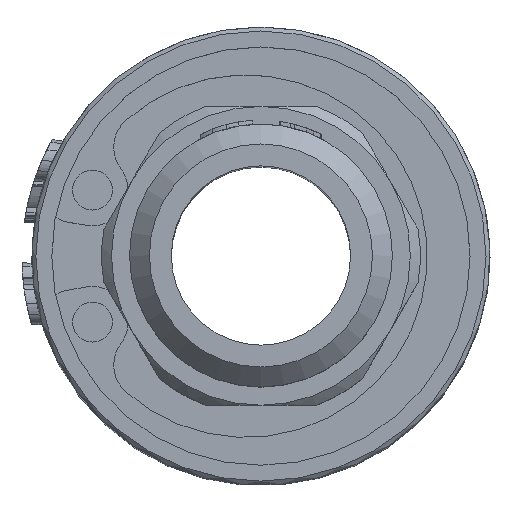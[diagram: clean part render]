
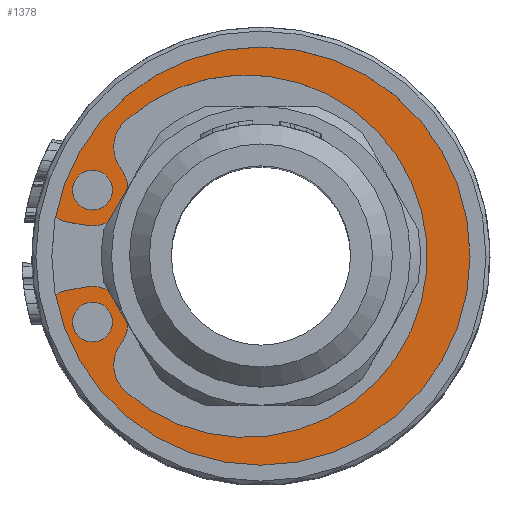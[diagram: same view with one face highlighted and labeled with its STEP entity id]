
A CAD part, top view. The second image highlights one B-rep face of the part: STEP entity #1378.
In plain terms, the highlighted planar face has unit normal (0, 0, 1).
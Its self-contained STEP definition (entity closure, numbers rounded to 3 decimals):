
#197=FACE_BOUND('',#3450,.T.);
#198=FACE_BOUND('',#3451,.T.);
#199=FACE_BOUND('',#3452,.T.);
#1378=ADVANCED_FACE('',(#197,#198,#199),#1902,.T.);
#1902=PLANE('',#16254);
#3450=EDGE_LOOP('',(#9017));
#3451=EDGE_LOOP('',(#9018,#9019,#9020,#9021,#9022,#9023,#9024,#9025,#9026,
#9027,#9028,#9029,#9030,#9031));
#3452=EDGE_LOOP('',(#9032));
#3778=CIRCLE('',#16223,11.);
#3779=CIRCLE('',#16228,6.6);
#3780=CIRCLE('',#16230,6.6);
#3781=CIRCLE('',#16232,1.793);
#3782=CIRCLE('',#16234,1.793);
#3783=CIRCLE('',#16236,1.793);
#3784=CIRCLE('',#16238,1.793);
#3785=CIRCLE('',#16240,9.1);
#3786=CIRCLE('',#16242,1.);
#3787=CIRCLE('',#16244,1.793);
#3788=CIRCLE('',#16247,1.793);
#3789=CIRCLE('',#16249,1.);
#3790=CIRCLE('',#16252,1.);
#3791=CIRCLE('',#16253,1.);
#9017=ORIENTED_EDGE('',*,*,#14128,.F.);
#9018=ORIENTED_EDGE('',*,*,#14127,.T.);
#9019=ORIENTED_EDGE('',*,*,#14125,.T.);
#9020=ORIENTED_EDGE('',*,*,#14100,.F.);
#9021=ORIENTED_EDGE('',*,*,#14119,.F.);
#9022=ORIENTED_EDGE('',*,*,#14122,.F.);
#9023=ORIENTED_EDGE('',*,*,#14120,.F.);
#9024=ORIENTED_EDGE('',*,*,#14108,.T.);
#9025=ORIENTED_EDGE('',*,*,#14112,.F.);
#9026=ORIENTED_EDGE('',*,*,#14109,.F.);
#9027=ORIENTED_EDGE('',*,*,#14117,.F.);
#9028=ORIENTED_EDGE('',*,*,#14113,.T.);
#9029=ORIENTED_EDGE('',*,*,#14116,.T.);
#9030=ORIENTED_EDGE('',*,*,#14105,.F.);
#9031=ORIENTED_EDGE('',*,*,#14123,.T.);
#9032=ORIENTED_EDGE('',*,*,#14129,.T.);
#11935=VERTEX_POINT('',#30447);
#11936=VERTEX_POINT('',#30448);
#11937=VERTEX_POINT('',#30456);
#11938=VERTEX_POINT('',#30458);
#11939=VERTEX_POINT('',#30462);
#11940=VERTEX_POINT('',#30464);
#11941=VERTEX_POINT('',#30468);
#11942=VERTEX_POINT('',#30469);
#11943=VERTEX_POINT('',#30476);
#11944=VERTEX_POINT('',#30477);
#11945=VERTEX_POINT('',#30486);
#11946=VERTEX_POINT('',#30490);
#11947=VERTEX_POINT('',#30496);
#11948=VERTEX_POINT('',#30500);
#11949=VERTEX_POINT('',#30506);
#11950=VERTEX_POINT('',#30508);
#14100=EDGE_CURVE('',#11935,#11936,#3778,.T.);
#14105=EDGE_CURVE('',#11938,#11937,#3779,.T.);
#14108=EDGE_CURVE('',#11939,#11940,#3780,.T.);
#14109=EDGE_CURVE('',#11941,#11942,#3781,.T.);
#14112=EDGE_CURVE('',#11942,#11940,#3782,.T.);
#14113=EDGE_CURVE('',#11943,#11944,#3783,.T.);
#14116=EDGE_CURVE('',#11944,#11937,#3784,.T.);
#14117=EDGE_CURVE('',#11943,#11941,#3785,.T.);
#14119=EDGE_CURVE('',#11945,#11935,#3786,.T.);
#14120=EDGE_CURVE('',#11939,#11946,#3787,.T.);
#14122=EDGE_CURVE('',#11946,#11945,#14960,.T.);
#14123=EDGE_CURVE('',#11938,#11947,#3788,.T.);
#14125=EDGE_CURVE('',#11948,#11936,#3789,.T.);
#14127=EDGE_CURVE('',#11947,#11948,#14963,.T.);
#14128=EDGE_CURVE('',#11949,#11949,#3790,.T.);
#14129=EDGE_CURVE('',#11950,#11950,#3791,.T.);
#14960=LINE('',#30493,#15695);
#14963=LINE('',#30503,#15698);
#15695=VECTOR('',#17797,1.);
#15698=VECTOR('',#17810,1.);
#16223=AXIS2_PLACEMENT_3D('',#30446,#17739,#17740);
#16228=AXIS2_PLACEMENT_3D('',#30459,#17753,#17754);
#16230=AXIS2_PLACEMENT_3D('',#30465,#17759,#17760);
#16232=AXIS2_PLACEMENT_3D('',#30467,#17763,#17764);
#16234=AXIS2_PLACEMENT_3D('',#30473,#17769,#17770);
#16236=AXIS2_PLACEMENT_3D('',#30475,#17773,#17774);
#16238=AXIS2_PLACEMENT_3D('',#30481,#17779,#17780);
#16240=AXIS2_PLACEMENT_3D('',#30483,#17783,#17784);
#16242=AXIS2_PLACEMENT_3D('',#30487,#17788,#17789);
#16244=AXIS2_PLACEMENT_3D('',#30489,#17792,#17793);
#16247=AXIS2_PLACEMENT_3D('',#30495,#17800,#17801);
#16249=AXIS2_PLACEMENT_3D('',#30499,#17805,#17806);
#16252=AXIS2_PLACEMENT_3D('',#30505,#17813,#17814);
#16253=AXIS2_PLACEMENT_3D('',#30507,#17815,#17816);
#16254=AXIS2_PLACEMENT_3D('',#30509,#17817,#17818);
#17739=DIRECTION('',(0.,0.,-1.));
#17740=DIRECTION('',(0.,1.,0.));
#17753=DIRECTION('',(0.,0.,1.));
#17754=DIRECTION('',(0.,1.,0.));
#17759=DIRECTION('',(0.,0.,-1.));
#17760=DIRECTION('',(0.,-1.,0.));
#17763=DIRECTION('',(0.,0.,1.));
#17764=DIRECTION('',(0.,-1.,0.));
#17769=DIRECTION('',(0.,0.,-1.));
#17770=DIRECTION('',(0.,-1.,0.));
#17773=DIRECTION('',(0.,0.,-1.));
#17774=DIRECTION('',(0.,1.,0.));
#17779=DIRECTION('',(0.,0.,1.));
#17780=DIRECTION('',(0.,1.,0.));
#17783=DIRECTION('',(0.,0.,1.));
#17784=DIRECTION('',(0.,1.,0.));
#17788=DIRECTION('',(0.,0.,-1.));
#17789=DIRECTION('',(0.,-1.,0.));
#17792=DIRECTION('',(0.,0.,-1.));
#17793=DIRECTION('',(0.,-1.,0.));
#17797=DIRECTION('',(-0.985,0.174,0.));
#17800=DIRECTION('',(0.,0.,1.));
#17801=DIRECTION('',(0.,1.,0.));
#17805=DIRECTION('',(0.,0.,1.));
#17806=DIRECTION('',(0.,1.,0.));
#17810=DIRECTION('',(-0.985,-0.174,0.));
#17813=DIRECTION('',(0.,0.,1.));
#17814=DIRECTION('',(0.,1.,0.));
#17815=DIRECTION('',(0.,0.,-1.));
#17816=DIRECTION('',(0.,-1.,0.));
#17817=DIRECTION('',(0.,0.,1.));
#17818=DIRECTION('',(0.,-1.,0.));
#30446=CARTESIAN_POINT('',(0.,0.,27.));
#30447=CARTESIAN_POINT('',(-10.588,2.984,27.));
#30448=CARTESIAN_POINT('',(-10.588,-2.984,27.));
#30456=CARTESIAN_POINT('',(-6.814,-2.605,27.));
#30458=CARTESIAN_POINT('',(-6.814,-2.605,27.));
#30459=CARTESIAN_POINT('',(-0.75,0.,27.));
#30462=CARTESIAN_POINT('',(-6.814,2.605,27.));
#30464=CARTESIAN_POINT('',(-6.814,2.605,27.));
#30465=CARTESIAN_POINT('',(-0.75,0.,27.));
#30467=CARTESIAN_POINT('',(-5.596,5.469,27.));
#30468=CARTESIAN_POINT('',(-6.785,6.811,27.));
#30469=CARTESIAN_POINT('',(-7.029,4.391,27.));
#30473=CARTESIAN_POINT('',(-8.462,3.313,27.));
#30475=CARTESIAN_POINT('',(-5.596,-5.469,27.));
#30476=CARTESIAN_POINT('',(-6.785,-6.811,27.));
#30477=CARTESIAN_POINT('',(-7.029,-4.391,27.));
#30481=CARTESIAN_POINT('',(-8.462,-3.313,27.));
#30483=CARTESIAN_POINT('',(-0.75,0.,27.));
#30486=CARTESIAN_POINT('',(-9.799,1.728,27.));
#30487=CARTESIAN_POINT('',(-9.625,2.713,27.));
#30489=CARTESIAN_POINT('',(-8.462,3.313,27.));
#30490=CARTESIAN_POINT('',(-8.773,1.547,27.));
#30493=CARTESIAN_POINT('',(0.,0.,27.));
#30495=CARTESIAN_POINT('',(-8.462,-3.313,27.));
#30496=CARTESIAN_POINT('',(-8.773,-1.547,27.));
#30499=CARTESIAN_POINT('',(-9.625,-2.713,27.));
#30500=CARTESIAN_POINT('',(-9.799,-1.728,27.));
#30503=CARTESIAN_POINT('',(0.,0.,27.));
#30505=CARTESIAN_POINT('',(-8.462,-3.313,27.));
#30506=CARTESIAN_POINT('',(-8.462,-2.313,27.));
#30507=CARTESIAN_POINT('',(-8.462,3.313,27.));
#30508=CARTESIAN_POINT('',(-8.462,2.313,27.));
#30509=CARTESIAN_POINT('',(0.,0.,27.));
